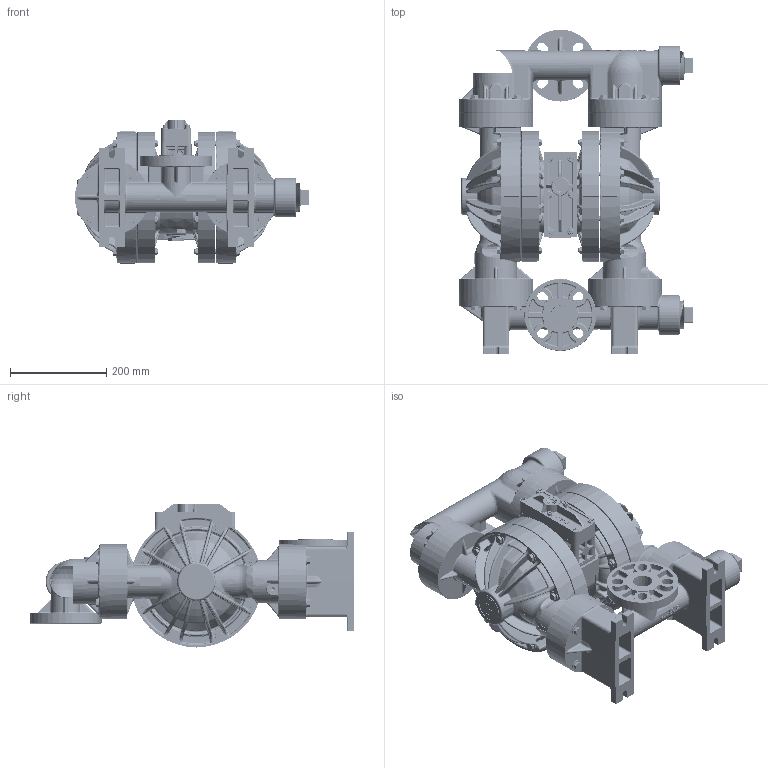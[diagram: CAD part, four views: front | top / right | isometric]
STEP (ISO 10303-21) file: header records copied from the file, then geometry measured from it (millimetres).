
FILE_DESCRIPTION (( 'STEP AP203' ), '1' );
FILE_NAME ('P400_CP_Flanged.STEP', '2025-04-04T11:21:26', ( '' ), ( '' ), 'SwSTEP 2.0', 'SolidWorks 2022', '' );
FILE_SCHEMA (( 'CONFIG_CONTROL_DESIGN' ));
Length unit declared in the file: inch
Products named in the file (1): P400_CP_Flanged
Bounding box: 487.91 x 676.48 x 298.7 mm (x, y, z)
Volume: 23387451.3 mm3; surface area: 1736252 mm2
Topology: 1 solids, 14 shells, 11261 faces, 28341 edges, 17435 vertices
Faces by surface type: plane 5465, bspline 2667, cylinder 1156, cone 832, torus 591, sphere 550
Entity records: 668504 total; most frequent: CARTESIAN_POINT 420414, ORIENTED_EDGE 56530, DIRECTION 44453, EDGE_CURVE 28265, VERTEX_POINT 17426, LINE 14923, VECTOR 14923, AXIS2_PLACEMENT_3D 14765
